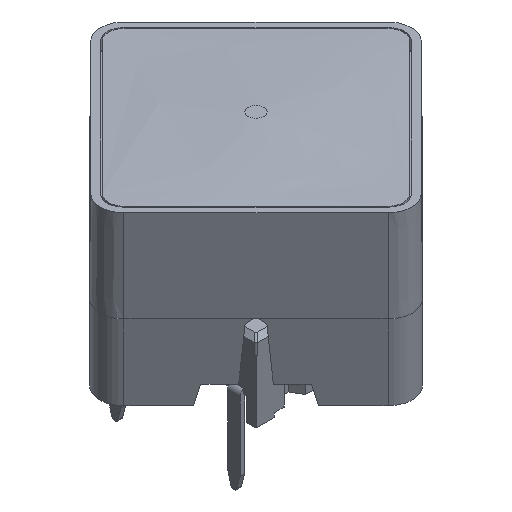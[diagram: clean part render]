
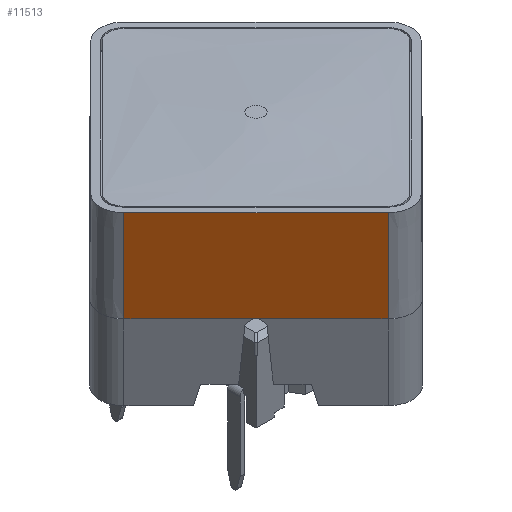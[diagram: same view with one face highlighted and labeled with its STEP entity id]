
A CAD part, isometric view. The second image highlights one B-rep face of the part: STEP entity #11513.
In plain terms, the highlighted planar face has unit normal (-0.707, -0.707, 0.009) as drawn and (0, -1, 0.009) by its records, which use the part's own axes.
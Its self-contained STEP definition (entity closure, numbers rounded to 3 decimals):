
#10696=CARTESIAN_POINT('',(12.614,-25.534,19.));
#10697=VERTEX_POINT('',#10696);
#10704=CARTESIAN_POINT('',(12.386,-25.534,19.));
#10705=VERTEX_POINT('',#10704);
#10706=CARTESIAN_POINT('',(12.614,-25.534,19.));
#10707=DIRECTION('',(-1.0,0.0,0.0));
#10708=VECTOR('',#10707,0.228);
#10709=LINE('',#10706,#10708);
#10710=EDGE_CURVE('',#10697,#10705,#10709,.T.);
#11448=CARTESIAN_POINT('',(18.48,-25.534,19.));
#11449=VERTEX_POINT('',#11448);
#11458=CARTESIAN_POINT('',(18.48,-25.483,24.85));
#11459=VERTEX_POINT('',#11458);
#11467=CARTESIAN_POINT('',(18.48,-25.483,24.85));
#11468=DIRECTION('',(0.0,-0.009,-1.));
#11469=VECTOR('',#11468,5.85);
#11470=LINE('',#11467,#11469);
#11471=EDGE_CURVE('',#11459,#11449,#11470,.T.);
#11476=CARTESIAN_POINT('',(6.52,-25.48,25.15));
#11477=DIRECTION('',(0.0,-1.,0.009));
#11478=DIRECTION('',(-1.0,0.0,0.0));
#11479=AXIS2_PLACEMENT_3D('',#11476,#11477,#11478);
#11480=PLANE('',#11479);
#11481=CARTESIAN_POINT('',(6.52,-25.534,19.));
#11482=VERTEX_POINT('',#11481);
#11483=CARTESIAN_POINT('',(6.52,-25.534,19.));
#11484=DIRECTION('',(1.0,0.0,0.0));
#11485=VECTOR('',#11484,5.866);
#11486=LINE('',#11483,#11485);
#11487=EDGE_CURVE('',#11482,#10705,#11486,.T.);
#11488=ORIENTED_EDGE('',*,*,#11487,.T.);
#11489=ORIENTED_EDGE('',*,*,#10710,.F.);
#11490=CARTESIAN_POINT('',(12.614,-25.534,19.));
#11491=DIRECTION('',(1.0,0.0,0.0));
#11492=VECTOR('',#11491,5.866);
#11493=LINE('',#11490,#11492);
#11494=EDGE_CURVE('',#10697,#11449,#11493,.T.);
#11495=ORIENTED_EDGE('',*,*,#11494,.T.);
#11496=ORIENTED_EDGE('',*,*,#11471,.F.);
#11497=CARTESIAN_POINT('',(6.52,-25.483,24.85));
#11498=VERTEX_POINT('',#11497);
#11499=CARTESIAN_POINT('',(18.48,-25.483,24.85));
#11500=DIRECTION('',(-1.0,0.0,0.0));
#11501=VECTOR('',#11500,11.96);
#11502=LINE('',#11499,#11501);
#11503=EDGE_CURVE('',#11459,#11498,#11502,.T.);
#11504=ORIENTED_EDGE('',*,*,#11503,.T.);
#11505=CARTESIAN_POINT('',(6.52,-25.483,24.85));
#11506=DIRECTION('',(0.0,-0.009,-1.));
#11507=VECTOR('',#11506,5.85);
#11508=LINE('',#11505,#11507);
#11509=EDGE_CURVE('',#11498,#11482,#11508,.T.);
#11510=ORIENTED_EDGE('',*,*,#11509,.T.);
#11511=EDGE_LOOP('',(#11488,#11489,#11495,#11496,#11504,#11510));
#11512=FACE_OUTER_BOUND('',#11511,.T.);
#11513=ADVANCED_FACE('',(#11512),#11480,.T.);
